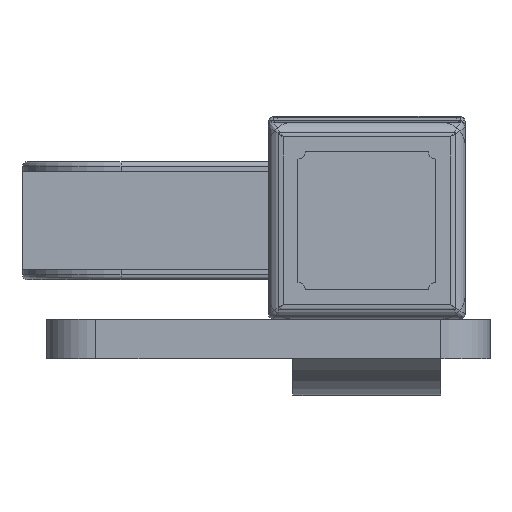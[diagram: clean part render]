
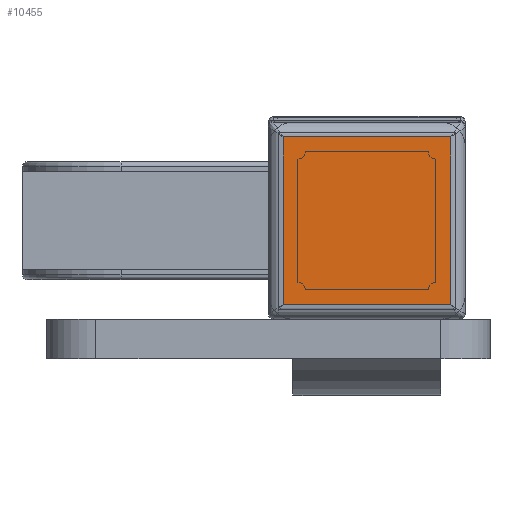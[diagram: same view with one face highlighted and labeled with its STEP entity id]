
A CAD part, front view. The second image highlights one B-rep face of the part: STEP entity #10455.
In plain terms, the highlighted planar face has unit normal (0, -1, 0).
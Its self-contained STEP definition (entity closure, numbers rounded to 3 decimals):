
#615 = DIRECTION ( 'NONE',  ( 1., 0., 0. ) ) ;
#833 = EDGE_LOOP ( 'NONE', ( #7069, #10810, #12224, #9693 ) ) ;
#1271 = VERTEX_POINT ( 'NONE', #5309 ) ;
#1493 = VECTOR ( 'NONE', #615, 1000. ) ;
#2374 = FACE_OUTER_BOUND ( 'NONE', #833, .T. ) ;
#3274 = VERTEX_POINT ( 'NONE', #4015 ) ;
#3362 = CARTESIAN_POINT ( 'NONE',  ( 17., -5., 19. ) ) ;
#3499 = DIRECTION ( 'NONE',  ( 0., -1., 0. ) ) ;
#4015 = CARTESIAN_POINT ( 'NONE',  ( -17., -5., -17. ) ) ;
#4028 = CARTESIAN_POINT ( 'NONE',  ( 17., -5., -17. ) ) ;
#4098 = VECTOR ( 'NONE', #8219, 1000. ) ;
#4357 = DIRECTION ( 'NONE',  ( 0., 0., 1. ) ) ;
#4407 = CARTESIAN_POINT ( 'NONE',  ( 0., -5., 0. ) ) ;
#4695 = LINE ( 'NONE', #6347, #7207 ) ;
#5286 = LINE ( 'NONE', #3362, #9958 ) ;
#5309 = CARTESIAN_POINT ( 'NONE',  ( -17., -5., 17. ) ) ;
#5464 = CARTESIAN_POINT ( 'NONE',  ( 19., -5., -17. ) ) ;
#6332 = LINE ( 'NONE', #5464, #1493 ) ;
#6347 = CARTESIAN_POINT ( 'NONE',  ( -19., -5., 17. ) ) ;
#6612 = CARTESIAN_POINT ( 'NONE',  ( 17., -5., 17. ) ) ;
#6913 = LINE ( 'NONE', #11013, #4098 ) ;
#7069 = ORIENTED_EDGE ( 'NONE', *, *, #9354, .T. ) ;
#7207 = VECTOR ( 'NONE', #7295, 1000. ) ;
#7295 = DIRECTION ( 'NONE',  ( -1., 0., 0. ) ) ;
#7351 = VERTEX_POINT ( 'NONE', #6612 ) ;
#8219 = DIRECTION ( 'NONE',  ( 0., 0., -1. ) ) ;
#9354 = EDGE_CURVE ( 'NONE', #12011, #7351, #5286, .T. ) ;
#9403 = EDGE_CURVE ( 'NONE', #7351, #1271, #4695, .T. ) ;
#9463 = EDGE_CURVE ( 'NONE', #1271, #3274, #6913, .T. ) ;
#9483 = EDGE_CURVE ( 'NONE', #3274, #12011, #6332, .T. ) ;
#9693 = ORIENTED_EDGE ( 'NONE', *, *, #9483, .T. ) ;
#9926 = AXIS2_PLACEMENT_3D ( 'NONE', #4407, #3499, #10088 ) ;
#9958 = VECTOR ( 'NONE', #4357, 1000. ) ;
#10088 = DIRECTION ( 'NONE',  ( 0., 0., 1. ) ) ;
#10455 = ADVANCED_FACE ( 'NONE', ( #2374 ), #10986, .T. ) ;
#10810 = ORIENTED_EDGE ( 'NONE', *, *, #9403, .T. ) ;
#10986 = PLANE ( 'NONE',  #9926 ) ;
#11013 = CARTESIAN_POINT ( 'NONE',  ( -17., -5., -19. ) ) ;
#12011 = VERTEX_POINT ( 'NONE', #4028 ) ;
#12224 = ORIENTED_EDGE ( 'NONE', *, *, #9463, .T. ) ;
